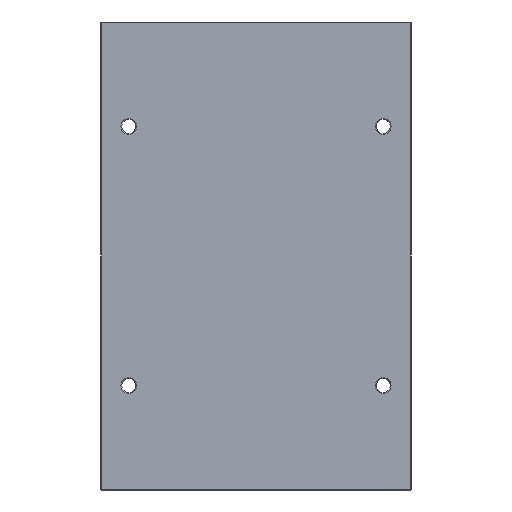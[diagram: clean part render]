
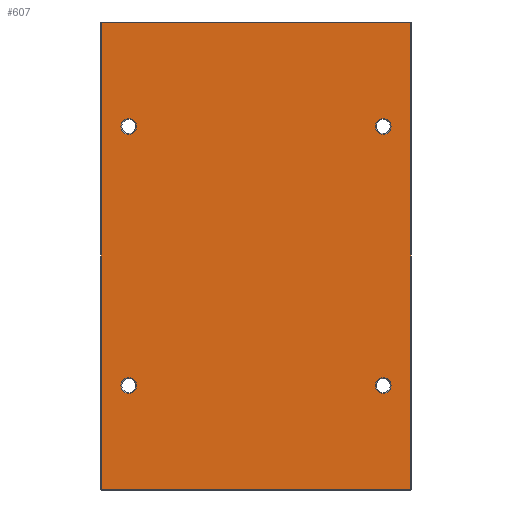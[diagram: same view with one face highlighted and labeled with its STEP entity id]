
A CAD part, front view. The second image highlights one B-rep face of the part: STEP entity #607.
In plain terms, the highlighted planar face has unit normal (0, -1, 0).
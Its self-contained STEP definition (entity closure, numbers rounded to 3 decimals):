
#58 = CIRCLE ( 'NONE', #668, 10. ) ;
#81 = DIRECTION ( 'NONE',  ( 0., 1., 0. ) ) ;
#98 = CARTESIAN_POINT ( 'NONE',  ( -162., 0., 175. ) ) ;
#113 = CARTESIAN_POINT ( 'NONE',  ( 162., 0., 175. ) ) ;
#118 = FACE_BOUND ( 'NONE', #549, .T. ) ;
#141 = CARTESIAN_POINT ( 'NONE',  ( 0., 0., 0. ) ) ;
#152 = EDGE_CURVE ( 'NONE', #797, #855, #1513, .T. ) ;
#165 = AXIS2_PLACEMENT_3D ( 'NONE', #1019, #81, #907 ) ;
#171 = AXIS2_PLACEMENT_3D ( 'NONE', #839, #1068, #782 ) ;
#183 = VERTEX_POINT ( 'NONE', #98 ) ;
#193 = CARTESIAN_POINT ( 'NONE',  ( 162., 0., 165. ) ) ;
#205 = ORIENTED_EDGE ( 'NONE', *, *, #1430, .T. ) ;
#211 = CARTESIAN_POINT ( 'NONE',  ( 162., 0., -175. ) ) ;
#223 = AXIS2_PLACEMENT_3D ( 'NONE', #1498, #1485, #1470 ) ;
#227 = EDGE_CURVE ( 'NONE', #753, #183, #58, .T. ) ;
#250 = CARTESIAN_POINT ( 'NONE',  ( 0., 0., -297. ) ) ;
#328 = LINE ( 'NONE', #250, #717 ) ;
#346 = ORIENTED_EDGE ( 'NONE', *, *, #485, .T. ) ;
#368 = DIRECTION ( 'NONE',  ( 0., 0., 1. ) ) ;
#369 = ORIENTED_EDGE ( 'NONE', *, *, #1218, .T. ) ;
#449 = DIRECTION ( 'NONE',  ( 0., 0., 1. ) ) ;
#478 = VERTEX_POINT ( 'NONE', #1512 ) ;
#479 = DIRECTION ( 'NONE',  ( 0., 1., 0. ) ) ;
#485 = EDGE_CURVE ( 'NONE', #1182, #478, #1530, .T. ) ;
#500 = VERTEX_POINT ( 'NONE', #1503 ) ;
#514 = DIRECTION ( 'NONE',  ( 0., 1., 0. ) ) ;
#516 = PLANE ( 'NONE',  #1436 ) ;
#539 = CIRCLE ( 'NONE', #1657, 10. ) ;
#549 = EDGE_LOOP ( 'NONE', ( #369, #1064 ) ) ;
#552 = DIRECTION ( 'NONE',  ( 0., 1., 0. ) ) ;
#557 = ORIENTED_EDGE ( 'NONE', *, *, #1111, .T. ) ;
#590 = VERTEX_POINT ( 'NONE', #596 ) ;
#596 = CARTESIAN_POINT ( 'NONE',  ( -197., 0., -297. ) ) ;
#607 = ADVANCED_FACE ( 'NONE', ( #1406, #118, #1132, #1094, #786 ), #516, .F. ) ;
#641 = DIRECTION ( 'NONE',  ( 0., 0., 1. ) ) ;
#668 = AXIS2_PLACEMENT_3D ( 'NONE', #1180, #1152, #1163 ) ;
#717 = VECTOR ( 'NONE', #1166, 1000. ) ;
#728 = CARTESIAN_POINT ( 'NONE',  ( -162., 0., -155. ) ) ;
#730 = ORIENTED_EDGE ( 'NONE', *, *, #838, .T. ) ;
#750 = DIRECTION ( 'NONE',  ( 0., 0., -1. ) ) ;
#753 = VERTEX_POINT ( 'NONE', #1018 ) ;
#765 = VECTOR ( 'NONE', #750, 1000. ) ;
#774 = CARTESIAN_POINT ( 'NONE',  ( 162., 0., -165. ) ) ;
#781 = CARTESIAN_POINT ( 'NONE',  ( -197., 0., 0. ) ) ;
#782 = DIRECTION ( 'NONE',  ( 0., 0., 1. ) ) ;
#786 = FACE_OUTER_BOUND ( 'NONE', #1003, .T. ) ;
#797 = VERTEX_POINT ( 'NONE', #867 ) ;
#816 = CARTESIAN_POINT ( 'NONE',  ( 162., 0., -155. ) ) ;
#817 = VERTEX_POINT ( 'NONE', #856 ) ;
#838 = EDGE_CURVE ( 'NONE', #478, #590, #1076, .T. ) ;
#839 = CARTESIAN_POINT ( 'NONE',  ( -162., 0., -165. ) ) ;
#855 = VERTEX_POINT ( 'NONE', #728 ) ;
#856 = CARTESIAN_POINT ( 'NONE',  ( 162., 0., 155. ) ) ;
#867 = CARTESIAN_POINT ( 'NONE',  ( -162., 0., -175. ) ) ;
#886 = CIRCLE ( 'NONE', #165, 10. ) ;
#898 = ORIENTED_EDGE ( 'NONE', *, *, #152, .T. ) ;
#907 = DIRECTION ( 'NONE',  ( 0., 0., 1. ) ) ;
#919 = VERTEX_POINT ( 'NONE', #816 ) ;
#997 = AXIS2_PLACEMENT_3D ( 'NONE', #193, #1542, #1635 ) ;
#1003 = EDGE_LOOP ( 'NONE', ( #205, #346, #730, #1045 ) ) ;
#1018 = CARTESIAN_POINT ( 'NONE',  ( -162., 0., 155. ) ) ;
#1019 = CARTESIAN_POINT ( 'NONE',  ( 162., 0., -165. ) ) ;
#1022 = ORIENTED_EDGE ( 'NONE', *, *, #1234, .T. ) ;
#1045 = ORIENTED_EDGE ( 'NONE', *, *, #1127, .T. ) ;
#1064 = ORIENTED_EDGE ( 'NONE', *, *, #1626, .T. ) ;
#1068 = DIRECTION ( 'NONE',  ( 0., 1., 0. ) ) ;
#1069 = VECTOR ( 'NONE', #641, 1000. ) ;
#1076 = LINE ( 'NONE', #781, #765 ) ;
#1094 = FACE_BOUND ( 'NONE', #1608, .T. ) ;
#1100 = CIRCLE ( 'NONE', #1109, 10. ) ;
#1109 = AXIS2_PLACEMENT_3D ( 'NONE', #774, #1481, #1354 ) ;
#1111 = EDGE_CURVE ( 'NONE', #183, #753, #1215, .T. ) ;
#1127 = EDGE_CURVE ( 'NONE', #590, #500, #328, .T. ) ;
#1129 = VERTEX_POINT ( 'NONE', #113 ) ;
#1132 = FACE_BOUND ( 'NONE', #1609, .T. ) ;
#1152 = DIRECTION ( 'NONE',  ( 0., 1., 0. ) ) ;
#1163 = DIRECTION ( 'NONE',  ( 0., 0., 1. ) ) ;
#1166 = DIRECTION ( 'NONE',  ( 1., 0., 0. ) ) ;
#1180 = CARTESIAN_POINT ( 'NONE',  ( -162., 0., 165. ) ) ;
#1182 = VERTEX_POINT ( 'NONE', #1525 ) ;
#1205 = ORIENTED_EDGE ( 'NONE', *, *, #1370, .T. ) ;
#1210 = CIRCLE ( 'NONE', #223, 10. ) ;
#1215 = CIRCLE ( 'NONE', #1456, 10. ) ;
#1218 = EDGE_CURVE ( 'NONE', #817, #1129, #539, .T. ) ;
#1234 = EDGE_CURVE ( 'NONE', #1261, #919, #886, .T. ) ;
#1261 = VERTEX_POINT ( 'NONE', #211 ) ;
#1272 = VECTOR ( 'NONE', #1656, 1000. ) ;
#1278 = DIRECTION ( 'NONE',  ( 0., 0., 1. ) ) ;
#1335 = ORIENTED_EDGE ( 'NONE', *, *, #1449, .T. ) ;
#1354 = DIRECTION ( 'NONE',  ( 0., 0., 1. ) ) ;
#1364 = CARTESIAN_POINT ( 'NONE',  ( 197., 0., 0. ) ) ;
#1370 = EDGE_CURVE ( 'NONE', #855, #797, #1210, .T. ) ;
#1374 = ORIENTED_EDGE ( 'NONE', *, *, #227, .T. ) ;
#1375 = CARTESIAN_POINT ( 'NONE',  ( 162., 0., 165. ) ) ;
#1402 = CARTESIAN_POINT ( 'NONE',  ( -162., 0., 165. ) ) ;
#1406 = FACE_BOUND ( 'NONE', #1450, .T. ) ;
#1419 = CIRCLE ( 'NONE', #997, 10. ) ;
#1430 = EDGE_CURVE ( 'NONE', #500, #1182, #1452, .T. ) ;
#1436 = AXIS2_PLACEMENT_3D ( 'NONE', #141, #479, #449 ) ;
#1449 = EDGE_CURVE ( 'NONE', #919, #1261, #1100, .T. ) ;
#1450 = EDGE_LOOP ( 'NONE', ( #1022, #1335 ) ) ;
#1452 = LINE ( 'NONE', #1364, #1069 ) ;
#1456 = AXIS2_PLACEMENT_3D ( 'NONE', #1402, #552, #1278 ) ;
#1470 = DIRECTION ( 'NONE',  ( 0., 0., 1. ) ) ;
#1481 = DIRECTION ( 'NONE',  ( 0., 1., 0. ) ) ;
#1485 = DIRECTION ( 'NONE',  ( 0., 1., 0. ) ) ;
#1498 = CARTESIAN_POINT ( 'NONE',  ( -162., 0., -165. ) ) ;
#1503 = CARTESIAN_POINT ( 'NONE',  ( 197., 0., -297. ) ) ;
#1512 = CARTESIAN_POINT ( 'NONE',  ( -197., 0., 297. ) ) ;
#1513 = CIRCLE ( 'NONE', #171, 10. ) ;
#1525 = CARTESIAN_POINT ( 'NONE',  ( 197., 0., 297. ) ) ;
#1530 = LINE ( 'NONE', #1662, #1272 ) ;
#1542 = DIRECTION ( 'NONE',  ( 0., 1., 0. ) ) ;
#1608 = EDGE_LOOP ( 'NONE', ( #898, #1205 ) ) ;
#1609 = EDGE_LOOP ( 'NONE', ( #1374, #557 ) ) ;
#1626 = EDGE_CURVE ( 'NONE', #1129, #817, #1419, .T. ) ;
#1635 = DIRECTION ( 'NONE',  ( 0., 0., 1. ) ) ;
#1656 = DIRECTION ( 'NONE',  ( -1., 0., 0. ) ) ;
#1657 = AXIS2_PLACEMENT_3D ( 'NONE', #1375, #514, #368 ) ;
#1662 = CARTESIAN_POINT ( 'NONE',  ( 0., 0., 297. ) ) ;
